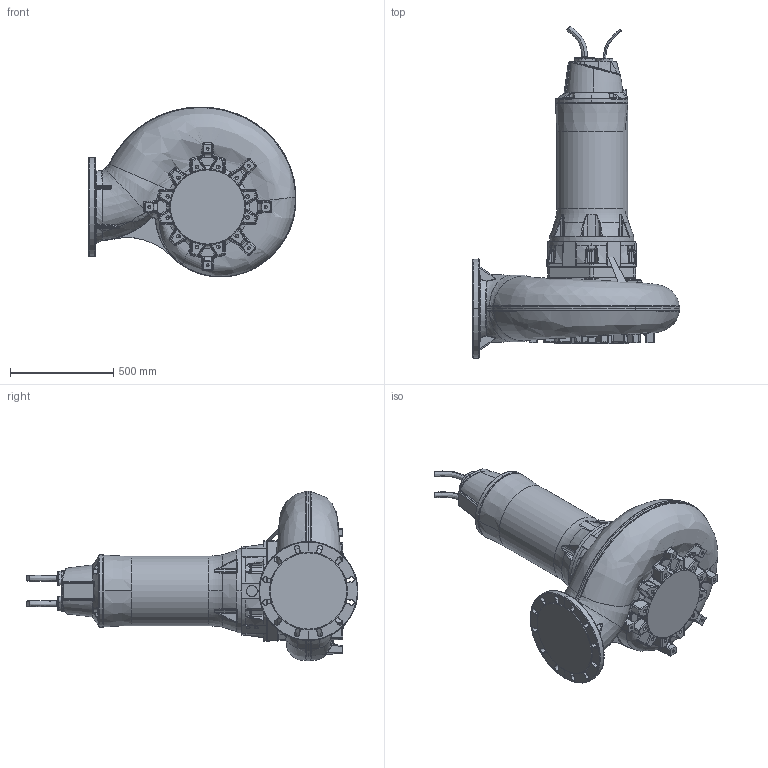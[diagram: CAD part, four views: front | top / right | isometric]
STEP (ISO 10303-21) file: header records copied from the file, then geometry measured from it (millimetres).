
FILE_DESCRIPTION (( 'STEP AP214' ), '1' );
FILE_NAME ('PE4_XFP300J-CH2_MOTOR OK_B_NG2.STEP', '2017-03-15T10:27:21', ( '' ), ( '' ), 'SwSTEP 2.0', 'SolidWorks 2017', '' );
FILE_SCHEMA (( 'AUTOMOTIVE_DESIGN' ));
Length unit declared in the file: millimetre
Products named in the file (1): PE4_XFP300J-CH2_MOTOR OK_B_NG2
Bounding box: 1008.43 x 1609.58 x 824.2 mm (x, y, z)
Volume: 251916753.4 mm3; surface area: 3500762.1 mm2
Topology: 1 solids, 8 shells, 2173 faces, 5370 edges, 3132 vertices
Faces by surface type: bspline 854, cylinder 475, plane 332, cone 233, torus 223, sphere 56
Entity records: 165465 total; most frequent: CARTESIAN_POINT 97306, ORIENTED_EDGE 10508, DIRECTION 7694, EDGE_CURVE 5254, AXIS2_PLACEMENT_3D 3298, VERTEX_POINT 3132, EDGE_LOOP 2258, UNCERTAINTY_MEASURE_WITH_UNIT 2176
